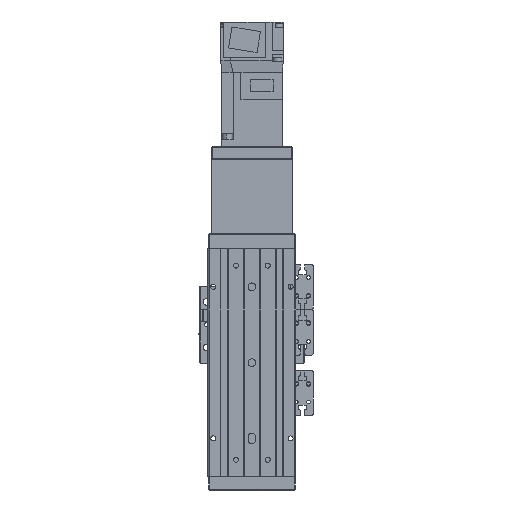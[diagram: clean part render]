
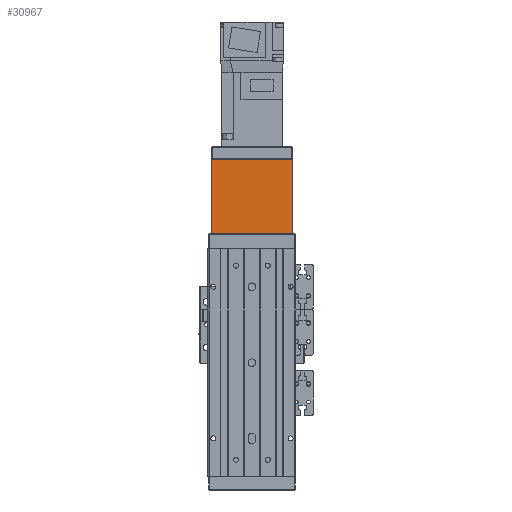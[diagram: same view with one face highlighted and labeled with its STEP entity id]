
A CAD part, front view. The second image highlights one B-rep face of the part: STEP entity #30967.
In plain terms, the highlighted planar face has unit normal (0, -1, 0) as drawn and (0, 0, 1) by its records, which use the part's own axes.
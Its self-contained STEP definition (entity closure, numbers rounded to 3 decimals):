
#321 = PLANE ( 'NONE',  #17830 ) ;
#1146 = VECTOR ( 'NONE', #25962, 1000. ) ;
#2146 = EDGE_LOOP ( 'NONE', ( #7857, #9767, #23197, #17396 ) ) ;
#3600 = LINE ( 'NONE', #13600, #22245 ) ;
#3696 = VECTOR ( 'NONE', #18039, 1000. ) ;
#4707 = VERTEX_POINT ( 'NONE', #16808 ) ;
#4720 = VERTEX_POINT ( 'NONE', #11918 ) ;
#4953 = CARTESIAN_POINT ( 'NONE',  ( 26.5, -24.5, 22. ) ) ;
#4958 = CARTESIAN_POINT ( 'NONE',  ( 26.5, 24.5, 22. ) ) ;
#5979 = LINE ( 'NONE', #15966, #1146 ) ;
#7857 = ORIENTED_EDGE ( 'NONE', *, *, #10939, .T. ) ;
#8050 = CARTESIAN_POINT ( 'NONE',  ( 26.5, -24.5, 22. ) ) ;
#9462 = VERTEX_POINT ( 'NONE', #23116 ) ;
#9767 = ORIENTED_EDGE ( 'NONE', *, *, #30559, .T. ) ;
#10322 = CARTESIAN_POINT ( 'NONE',  ( 26.5, 24.6, 22. ) ) ;
#10939 = EDGE_CURVE ( 'NONE', #9462, #4720, #5979, .T. ) ;
#11918 = CARTESIAN_POINT ( 'NONE',  ( -26.5, -24.5, 22. ) ) ;
#13600 = CARTESIAN_POINT ( 'NONE',  ( 26.5, 24.6, 22. ) ) ;
#14950 = DIRECTION ( 'NONE',  ( -1., 0., 0. ) ) ;
#15966 = CARTESIAN_POINT ( 'NONE',  ( -26.5, 24.6, 22. ) ) ;
#16808 = CARTESIAN_POINT ( 'NONE',  ( 26.5, 24.5, 22. ) ) ;
#17396 = ORIENTED_EDGE ( 'NONE', *, *, #28078, .T. ) ;
#17830 = AXIS2_PLACEMENT_3D ( 'NONE', #10322, #20291, #30286 ) ;
#18039 = DIRECTION ( 'NONE',  ( 1., 0., 0. ) ) ;
#20291 = DIRECTION ( 'NONE',  ( 0., 0., -1. ) ) ;
#20483 = VERTEX_POINT ( 'NONE', #4953 ) ;
#22245 = VECTOR ( 'NONE', #23583, 1000. ) ;
#22752 = FACE_OUTER_BOUND ( 'NONE', #2146, .T. ) ;
#23116 = CARTESIAN_POINT ( 'NONE',  ( -26.5, 24.5, 22. ) ) ;
#23197 = ORIENTED_EDGE ( 'NONE', *, *, #25705, .F. ) ;
#23583 = DIRECTION ( 'NONE',  ( 0., -1., 0. ) ) ;
#25125 = VECTOR ( 'NONE', #14950, 1000. ) ;
#25705 = EDGE_CURVE ( 'NONE', #4707, #20483, #3600, .T. ) ;
#25962 = DIRECTION ( 'NONE',  ( 0., -1., 0. ) ) ;
#27391 = LINE ( 'NONE', #4958, #25125 ) ;
#28078 = EDGE_CURVE ( 'NONE', #4707, #9462, #27391, .T. ) ;
#30286 = DIRECTION ( 'NONE',  ( -1., 0., 0. ) ) ;
#30483 = LINE ( 'NONE', #8050, #3696 ) ;
#30559 = EDGE_CURVE ( 'NONE', #4720, #20483, #30483, .T. ) ;
#30967 = ADVANCED_FACE ( 'NONE', ( #22752 ), #321, .F. ) ;
